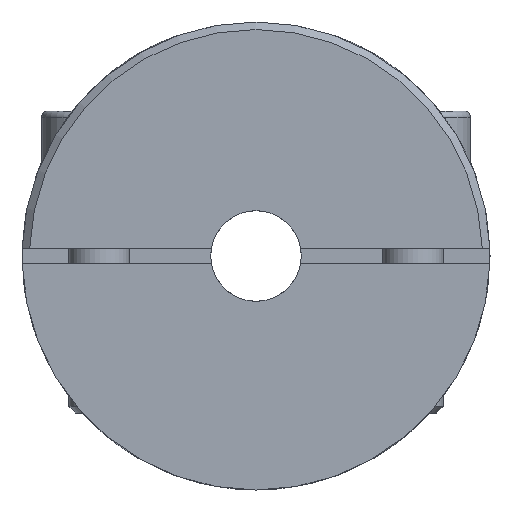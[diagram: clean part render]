
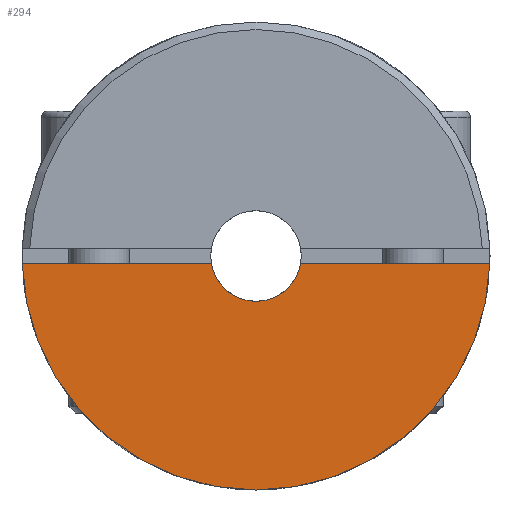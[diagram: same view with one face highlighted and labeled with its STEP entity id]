
A CAD part, left-side view. The second image highlights one B-rep face of the part: STEP entity #294.
In plain terms, the highlighted planar face has unit normal (-1, 0, 0) as drawn and (1, 0, 0) by its records, which use the part's own axes.
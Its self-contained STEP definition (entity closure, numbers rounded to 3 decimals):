
#294 = ADVANCED_FACE( '', ( #627 ), #628, .T. );
#627 = FACE_OUTER_BOUND( '', #1139, .T. );
#628 = PLANE( '', #1140 );
#1139 = EDGE_LOOP( '', ( #1667, #1668, #1669, #1670 ) );
#1140 = AXIS2_PLACEMENT_3D( '', #1671, #1672, #1673 );
#1667 = ORIENTED_EDGE( '', *, *, #2479, .F. );
#1668 = ORIENTED_EDGE( '', *, *, #2480, .T. );
#1669 = ORIENTED_EDGE( '', *, *, #2445, .T. );
#1670 = ORIENTED_EDGE( '', *, *, #2481, .T. );
#1671 = CARTESIAN_POINT( '', ( 7.3, 0., 7.75 ) );
#1672 = DIRECTION( '', ( 1., 0., 0. ) );
#1673 = DIRECTION( '', ( 0., 0., -1. ) );
#2445 = EDGE_CURVE( '', #2748, #2753, #2755, .T. );
#2479 = EDGE_CURVE( '', #2811, #2812, #2813, .T. );
#2480 = EDGE_CURVE( '', #2811, #2748, #2814, .T. );
#2481 = EDGE_CURVE( '', #2753, #2812, #2815, .T. );
#2748 = VERTEX_POINT( '', #3174 );
#2753 = VERTEX_POINT( '', #3180 );
#2755 = CIRCLE( '', #3183, 1.5 );
#2811 = VERTEX_POINT( '', #3361 );
#2812 = VERTEX_POINT( '', #3362 );
#2813 = CIRCLE( '', #3363, 7.75 );
#2814 = LINE( '', #3364, #3365 );
#2815 = LINE( '', #3366, #3367 );
#3174 = CARTESIAN_POINT( '', ( 7.3, 1.479, -0.25 ) );
#3180 = CARTESIAN_POINT( '', ( 7.3, -1.479, -0.25 ) );
#3183 = AXIS2_PLACEMENT_3D( '', #3837, #3838, #3839 );
#3361 = CARTESIAN_POINT( '', ( 7.3, 7.746, -0.25 ) );
#3362 = CARTESIAN_POINT( '', ( 7.3, -7.746, -0.25 ) );
#3363 = AXIS2_PLACEMENT_3D( '', #3893, #3894, #3895 );
#3364 = CARTESIAN_POINT( '', ( 7.3, 0., -0.25 ) );
#3365 = VECTOR( '', #3896, 1000. );
#3366 = CARTESIAN_POINT( '', ( 7.3, 0., -0.25 ) );
#3367 = VECTOR( '', #3897, 1000. );
#3837 = CARTESIAN_POINT( '', ( 7.3, 0., 0. ) );
#3838 = DIRECTION( '', ( -1., 0., 0. ) );
#3839 = DIRECTION( '', ( 0., 0., 1. ) );
#3893 = CARTESIAN_POINT( '', ( 7.3, 0., 0. ) );
#3894 = DIRECTION( '', ( -1., 0., 0. ) );
#3895 = DIRECTION( '', ( 0., 0., 1. ) );
#3896 = DIRECTION( '', ( 0., -1., 0. ) );
#3897 = DIRECTION( '', ( 0., -1., 0. ) );
